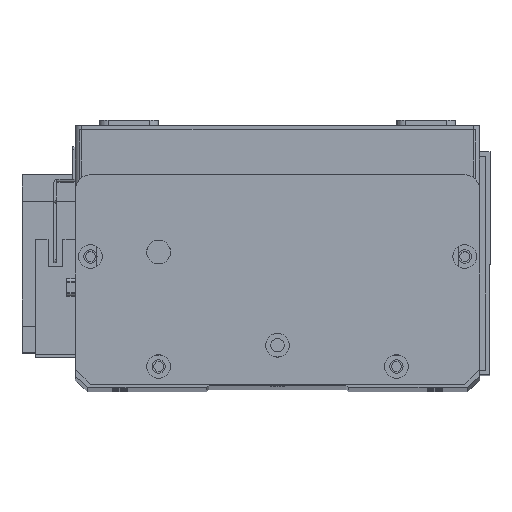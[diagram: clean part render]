
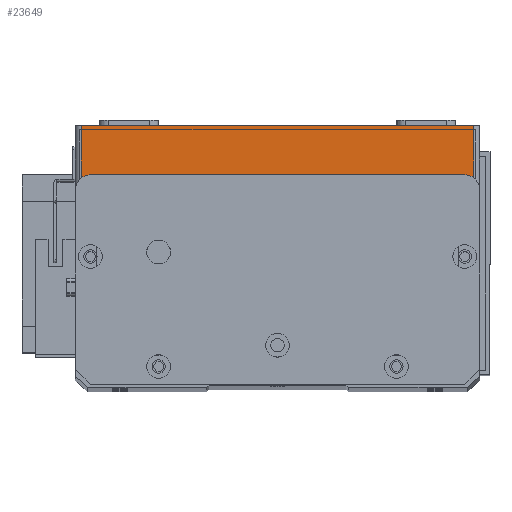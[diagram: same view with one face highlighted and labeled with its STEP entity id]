
A CAD part, top view. The second image highlights one B-rep face of the part: STEP entity #23649.
In plain terms, the highlighted planar face has unit normal (0, 0, 1) as drawn and (0, -1, 0) by its records, which use the part's own axes.
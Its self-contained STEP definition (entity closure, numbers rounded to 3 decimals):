
#1613 = AXIS2_PLACEMENT_3D ( 'NONE', #13500, #28979, #15750 ) ;
#1992 = VERTEX_POINT ( 'NONE', #20644 ) ;
#2363 = EDGE_CURVE ( 'NONE', #17836, #21176, #25059, .T. ) ;
#3310 = CARTESIAN_POINT ( 'NONE',  ( 134., 0., 19.5 ) ) ;
#4571 = VERTEX_POINT ( 'NONE', #24411 ) ;
#7333 = EDGE_CURVE ( 'NONE', #21176, #1992, #20046, .T. ) ;
#7510 = FACE_OUTER_BOUND ( 'NONE', #10170, .T. ) ;
#7808 = DIRECTION ( 'NONE',  ( 0., 0., -1. ) ) ;
#7902 = CARTESIAN_POINT ( 'NONE',  ( 2., 0., 19.5 ) ) ;
#8008 = CARTESIAN_POINT ( 'NONE',  ( 2., 0., 19.5 ) ) ;
#10170 = EDGE_LOOP ( 'NONE', ( #14015, #26865, #28572, #11317 ) ) ;
#11046 = DIRECTION ( 'NONE',  ( 1., 0., 0. ) ) ;
#11291 = PLANE ( 'NONE',  #1613 ) ;
#11317 = ORIENTED_EDGE ( 'NONE', *, *, #16260, .T. ) ;
#12657 = VECTOR ( 'NONE', #15477, 1000. ) ;
#13157 = VECTOR ( 'NONE', #7808, 1000. ) ;
#13500 = CARTESIAN_POINT ( 'NONE',  ( 0., 0., 19.5 ) ) ;
#14015 = ORIENTED_EDGE ( 'NONE', *, *, #18783, .F. ) ;
#15477 = DIRECTION ( 'NONE',  ( 1., 0., 0. ) ) ;
#15750 = DIRECTION ( 'NONE',  ( 0., 0., 1. ) ) ;
#16260 = EDGE_CURVE ( 'NONE', #1992, #4571, #24179, .T. ) ;
#16729 = LINE ( 'NONE', #22203, #22034 ) ;
#17836 = VERTEX_POINT ( 'NONE', #8008 ) ;
#18783 = EDGE_CURVE ( 'NONE', #17836, #4571, #16729, .T. ) ;
#19369 = CARTESIAN_POINT ( 'NONE',  ( 0., 0., 0. ) ) ;
#20046 = LINE ( 'NONE', #19369, #12657 ) ;
#20644 = CARTESIAN_POINT ( 'NONE',  ( 134., 0., 0. ) ) ;
#21176 = VERTEX_POINT ( 'NONE', #27802 ) ;
#21349 = DIRECTION ( 'NONE',  ( 0., 0., 1. ) ) ;
#22034 = VECTOR ( 'NONE', #11046, 1000. ) ;
#22203 = CARTESIAN_POINT ( 'NONE',  ( 0., 0., 19.5 ) ) ;
#23649 = ADVANCED_FACE ( 'NONE', ( #7510 ), #11291, .F. ) ;
#24179 = LINE ( 'NONE', #3310, #28542 ) ;
#24411 = CARTESIAN_POINT ( 'NONE',  ( 134., 0., 19.5 ) ) ;
#25059 = LINE ( 'NONE', #7902, #13157 ) ;
#26865 = ORIENTED_EDGE ( 'NONE', *, *, #2363, .T. ) ;
#27802 = CARTESIAN_POINT ( 'NONE',  ( 2., 0., 0. ) ) ;
#28542 = VECTOR ( 'NONE', #21349, 1000. ) ;
#28572 = ORIENTED_EDGE ( 'NONE', *, *, #7333, .T. ) ;
#28979 = DIRECTION ( 'NONE',  ( 0., 1., 0. ) ) ;
